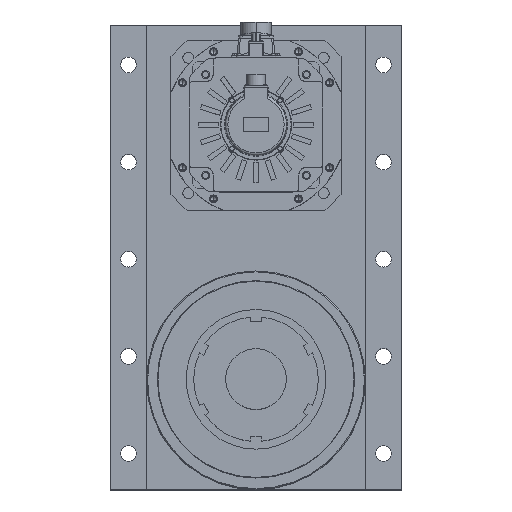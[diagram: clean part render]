
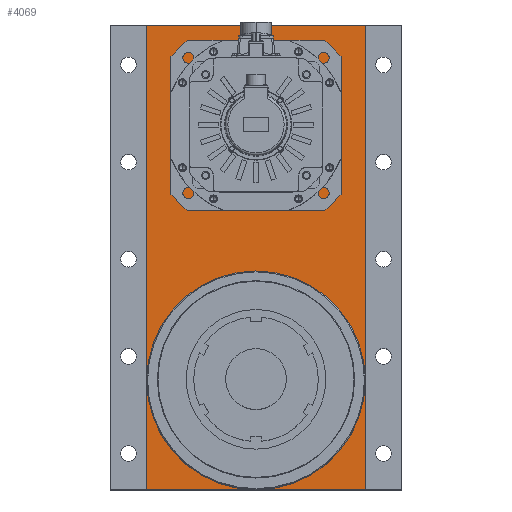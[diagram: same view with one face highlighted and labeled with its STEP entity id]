
A CAD part, top view. The second image highlights one B-rep face of the part: STEP entity #4069.
In plain terms, the highlighted planar face has unit normal (0, 0, 1).
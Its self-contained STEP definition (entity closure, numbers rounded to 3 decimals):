
#440 = ORIENTED_EDGE ( 'NONE', *, *, #8269, .F. ) ;
#576 = DIRECTION ( 'NONE',  ( 0., 0., -1. ) ) ;
#844 = CARTESIAN_POINT ( 'NONE',  ( 0., 0., -220. ) ) ;
#1277 = VERTEX_POINT ( 'NONE', #19581 ) ;
#1345 = VERTEX_POINT ( 'NONE', #23877 ) ;
#1709 = CARTESIAN_POINT ( 'NONE',  ( -180., 0., -220. ) ) ;
#1724 = EDGE_LOOP ( 'NONE', ( #28159, #31042 ) ) ;
#1858 = EDGE_LOOP ( 'NONE', ( #7034, #21191 ) ) ;
#1880 = EDGE_CURVE ( 'NONE', #11136, #37066, #33042, .T. ) ;
#2493 = CARTESIAN_POINT ( 'NONE',  ( 0., -180., -220. ) ) ;
#2716 = EDGE_LOOP ( 'NONE', ( #440, #37777, #31299, #31577 ) ) ;
#4069 = ADVANCED_FACE ( 'NONE', ( #17003, #18466, #33886 ), #37675, .F. ) ;
#5028 = DIRECTION ( 'NONE',  ( 0., 1., 0. ) ) ;
#5139 = DIRECTION ( 'NONE',  ( 0., 1., 0. ) ) ;
#5269 = CARTESIAN_POINT ( 'NONE',  ( 0., 420., -220. ) ) ;
#5389 = EDGE_CURVE ( 'NONE', #1277, #15826, #7247, .T. ) ;
#5963 = VECTOR ( 'NONE', #39990, 1000. ) ;
#6754 = DIRECTION ( 'NONE',  ( -1., 0., 0. ) ) ;
#7034 = ORIENTED_EDGE ( 'NONE', *, *, #9825, .F. ) ;
#7247 = CIRCLE ( 'NONE', #39728, 178.5 ) ;
#7883 = AXIS2_PLACEMENT_3D ( 'NONE', #24958, #18496, #21869 ) ;
#7961 = VERTEX_POINT ( 'NONE', #9770 ) ;
#8269 = EDGE_CURVE ( 'NONE', #11136, #1345, #32063, .T. ) ;
#8557 = AXIS2_PLACEMENT_3D ( 'NONE', #5269, #17312, #14630 ) ;
#9770 = CARTESIAN_POINT ( 'NONE',  ( 30., 420., -220. ) ) ;
#9825 = EDGE_CURVE ( 'NONE', #7961, #20397, #39183, .T. ) ;
#10389 = DIRECTION ( 'NONE',  ( -1., 0., 0. ) ) ;
#11136 = VERTEX_POINT ( 'NONE', #31139 ) ;
#14630 = DIRECTION ( 'NONE',  ( 1., 0., 0. ) ) ;
#15127 = AXIS2_PLACEMENT_3D ( 'NONE', #19689, #26048, #16826 ) ;
#15826 = VERTEX_POINT ( 'NONE', #24010 ) ;
#16826 = DIRECTION ( 'NONE',  ( 1., 0., 0. ) ) ;
#17003 = FACE_BOUND ( 'NONE', #1858, .T. ) ;
#17312 = DIRECTION ( 'NONE',  ( 0., 0., 1. ) ) ;
#18207 = AXIS2_PLACEMENT_3D ( 'NONE', #844, #576, #19181 ) ;
#18387 = CARTESIAN_POINT ( 'NONE',  ( -30., 420., -220. ) ) ;
#18466 = FACE_BOUND ( 'NONE', #1724, .T. ) ;
#18496 = DIRECTION ( 'NONE',  ( 0., 0., -1. ) ) ;
#18572 = LINE ( 'NONE', #1709, #20973 ) ;
#18810 = EDGE_CURVE ( 'NONE', #20397, #7961, #22893, .T. ) ;
#19181 = DIRECTION ( 'NONE',  ( -1., 0., 0. ) ) ;
#19483 = EDGE_CURVE ( 'NONE', #15826, #1277, #20407, .T. ) ;
#19581 = CARTESIAN_POINT ( 'NONE',  ( -178.5, 0., -220. ) ) ;
#19689 = CARTESIAN_POINT ( 'NONE',  ( 0., 420., -220. ) ) ;
#20397 = VERTEX_POINT ( 'NONE', #18387 ) ;
#20407 = CIRCLE ( 'NONE', #7883, 178.5 ) ;
#20973 = VECTOR ( 'NONE', #5028, 1000. ) ;
#21191 = ORIENTED_EDGE ( 'NONE', *, *, #18810, .F. ) ;
#21728 = LINE ( 'NONE', #37940, #28961 ) ;
#21869 = DIRECTION ( 'NONE',  ( -1., 0., 0. ) ) ;
#22893 = CIRCLE ( 'NONE', #15127, 30. ) ;
#23691 = CARTESIAN_POINT ( 'NONE',  ( 180., 0., -220. ) ) ;
#23877 = CARTESIAN_POINT ( 'NONE',  ( -180., -180., -220. ) ) ;
#24010 = CARTESIAN_POINT ( 'NONE',  ( 178.5, 0., -220. ) ) ;
#24958 = CARTESIAN_POINT ( 'NONE',  ( 0., 0., -220. ) ) ;
#25151 = DIRECTION ( 'NONE',  ( 0., 0., -1. ) ) ;
#25283 = CARTESIAN_POINT ( 'NONE',  ( 0., 0., -220. ) ) ;
#25655 = CARTESIAN_POINT ( 'NONE',  ( -180., 585., -220. ) ) ;
#26048 = DIRECTION ( 'NONE',  ( 0., 0., 1. ) ) ;
#26372 = VERTEX_POINT ( 'NONE', #25655 ) ;
#28159 = ORIENTED_EDGE ( 'NONE', *, *, #19483, .T. ) ;
#28961 = VECTOR ( 'NONE', #10389, 1000. ) ;
#30660 = VECTOR ( 'NONE', #5139, 1000. ) ;
#31042 = ORIENTED_EDGE ( 'NONE', *, *, #5389, .T. ) ;
#31139 = CARTESIAN_POINT ( 'NONE',  ( 180., -180., -220. ) ) ;
#31299 = ORIENTED_EDGE ( 'NONE', *, *, #38763, .T. ) ;
#31577 = ORIENTED_EDGE ( 'NONE', *, *, #34932, .F. ) ;
#32063 = LINE ( 'NONE', #2493, #5963 ) ;
#33042 = LINE ( 'NONE', #23691, #30660 ) ;
#33886 = FACE_OUTER_BOUND ( 'NONE', #2716, .T. ) ;
#34932 = EDGE_CURVE ( 'NONE', #1345, #26372, #18572, .T. ) ;
#35508 = CARTESIAN_POINT ( 'NONE',  ( 180., 585., -220. ) ) ;
#37066 = VERTEX_POINT ( 'NONE', #35508 ) ;
#37675 = PLANE ( 'NONE',  #18207 ) ;
#37777 = ORIENTED_EDGE ( 'NONE', *, *, #1880, .T. ) ;
#37940 = CARTESIAN_POINT ( 'NONE',  ( 0., 585., -220. ) ) ;
#38763 = EDGE_CURVE ( 'NONE', #37066, #26372, #21728, .T. ) ;
#39183 = CIRCLE ( 'NONE', #8557, 30. ) ;
#39728 = AXIS2_PLACEMENT_3D ( 'NONE', #25283, #25151, #6754 ) ;
#39990 = DIRECTION ( 'NONE',  ( -1., 0., 0. ) ) ;
